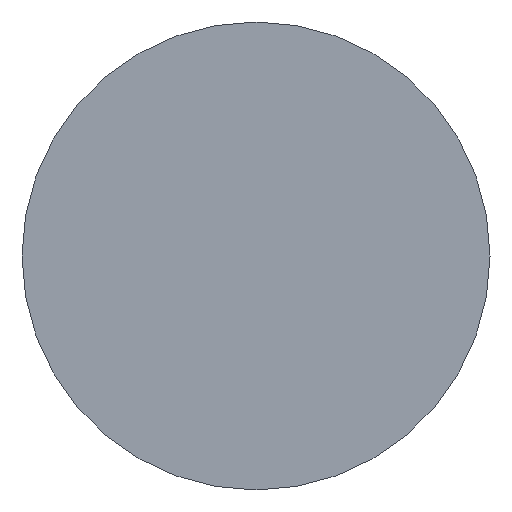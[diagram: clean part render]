
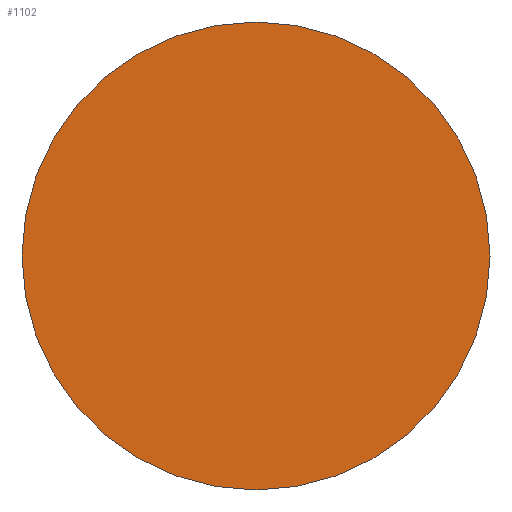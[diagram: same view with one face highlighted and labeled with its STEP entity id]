
A CAD part, left-side view. The second image highlights one B-rep face of the part: STEP entity #1102.
In plain terms, the highlighted planar face has unit normal (-1, 0, 0).
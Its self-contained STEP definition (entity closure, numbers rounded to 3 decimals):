
#1055=CARTESIAN_POINT('',(-421.291,-514.026,-56.025));
#1056=VERTEX_POINT('',#1055);
#1063=CARTESIAN_POINT('',(-421.291,-449.026,-56.025));
#1064=VERTEX_POINT('',#1063);
#1065=CARTESIAN_POINT('',(-421.291,-481.526,-56.025));
#1066=DIRECTION('',(-1.0,0.0,0.0));
#1067=DIRECTION('',(0.0,-1.0,0.0));
#1068=AXIS2_PLACEMENT_3D('',#1065,#1066,#1067);
#1069=CIRCLE('',#1068,32.5);
#1070=EDGE_CURVE('',#1064,#1056,#1069,.T.);
#1072=CARTESIAN_POINT('',(-421.291,-481.526,-56.025));
#1073=DIRECTION('',(-1.0,0.0,0.0));
#1074=DIRECTION('',(0.0,-1.0,0.0));
#1075=AXIS2_PLACEMENT_3D('',#1072,#1073,#1074);
#1076=CIRCLE('',#1075,32.5);
#1077=EDGE_CURVE('',#1056,#1064,#1076,.T.);
#1093=CARTESIAN_POINT('',(-421.291,-442.526,-95.025));
#1094=DIRECTION('',(-1.0,0.0,0.0));
#1095=DIRECTION('',(0.0,-1.0,0.0));
#1096=AXIS2_PLACEMENT_3D('',#1093,#1094,#1095);
#1097=PLANE('',#1096);
#1098=ORIENTED_EDGE('',*,*,#1077,.T.);
#1099=ORIENTED_EDGE('',*,*,#1070,.T.);
#1100=EDGE_LOOP('',(#1098,#1099));
#1101=FACE_OUTER_BOUND('',#1100,.T.);
#1102=ADVANCED_FACE('',(#1101),#1097,.T.);
